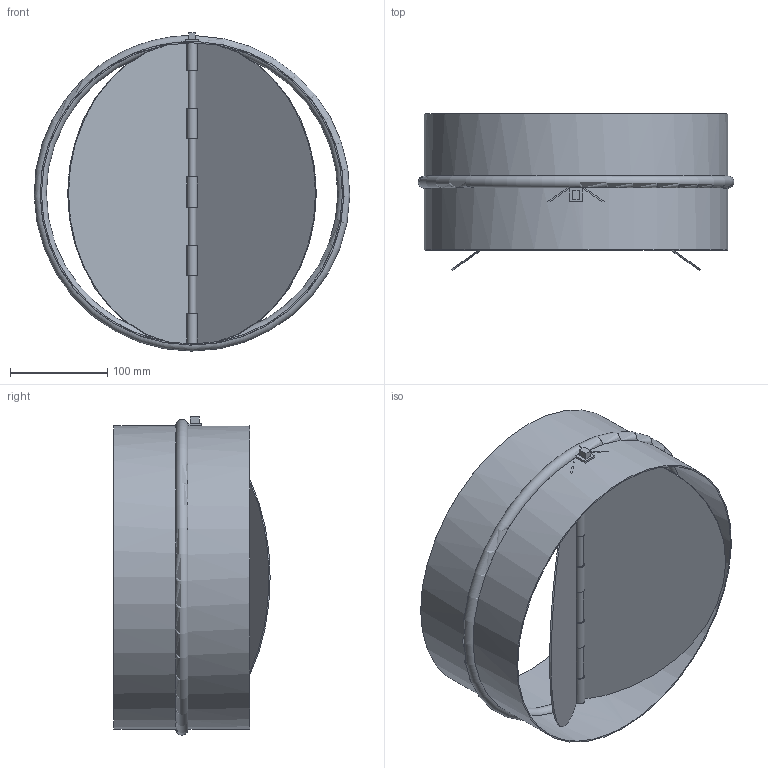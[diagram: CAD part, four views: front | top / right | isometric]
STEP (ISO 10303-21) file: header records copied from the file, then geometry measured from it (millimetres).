
FILE_DESCRIPTION(/* description */ (''),/* implementation_level */ '2;1');
FILE_NAME(/* name */ 'Z:\Output\RSK_315-05674-001.stp',/* time_stamp */ '2017-09-20T11:53:04+02:00',/* author */ ('engineering1'),/* organization */ (''),/* preprocessor_version */ 'ST-DEVELOPER v16.5',/* originating_system */ 'Autodesk Inventor 2017',/* authorisation */ '');
FILE_SCHEMA (('AUTOMOTIVE_DESIGN { 1 0 10303 214 3 1 1 }'));
Length unit declared in the file: millimetre
Products named in the file (1): RSK-1
Bounding box: 324.9 x 160.85 x 327.67 mm (x, y, z)
Volume: 407685.1 mm3; surface area: 443148.2 mm2
Topology: 1 solids, 1 shells, 70 faces, 191 edges, 122 vertices
Faces by surface type: plane 41, cylinder 23, torus 6
Full cylindrical faces by diameter (mm): 310 x2, 312.5 x2
Entity records: 2274 total; most frequent: CARTESIAN_POINT 501, DIRECTION 371, ORIENTED_EDGE 358, EDGE_CURVE 179, AXIS2_PLACEMENT_3D 141, VERTEX_POINT 117, LINE 89, VECTOR 89
